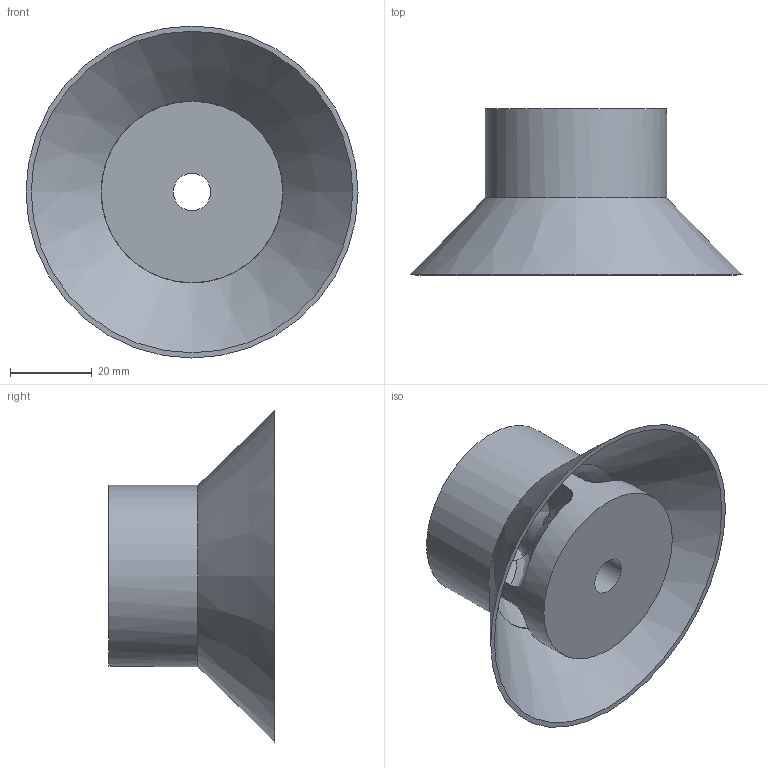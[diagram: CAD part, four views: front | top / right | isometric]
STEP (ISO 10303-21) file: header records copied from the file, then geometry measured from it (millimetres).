
FILE_DESCRIPTION(/* description */ (''),/* implementation_level */ '2;1');
FILE_NAME(/* name */ 'C:/Users/Owner/Desktop/KCAD 3Dp Fuel Filter Baffles Gen1/STEP Versions/1.75DIAx1.6 High Baffles STEP/1.75 Dia 36 CAL Baffle STEP.step',/* time_stamp */ '2019-05-22T19:20:27-04:00',/* author */ (''),/* organization */ (''),/* preprocessor_version */ 'ST-DEVELOPER v18',/* originating_system */ 'Autodesk Translation Framework v8.2.0.1029',/* authorisation */ '');
FILE_SCHEMA (('AUTOMOTIVE_DESIGN { 1 0 10303 214 3 1 1 }'));
Length unit declared in the file: inch
Products named in the file (1): baf 1.75 dia 1.6 high 36 cal
Bounding box: 81.28 x 40.64 x 81.28 mm (x, y, z)
Volume: 48965.7 mm3; surface area: 23197.4 mm2
Topology: 1 solids, 1 shells, 40 faces, 145 edges, 100 vertices
Faces by surface type: plane 15, bspline 13, cylinder 8, cone 2, torus 2
Full cylindrical faces by diameter (mm): 9.144 x2, 44.45 x2
Entity records: 2291 total; most frequent: CARTESIAN_POINT 1164, ORIENTED_EDGE 290, DIRECTION 158, EDGE_CURVE 145, VERTEX_POINT 100, B_SPLINE_CURVE_WITH_KNOTS 70, AXIS2_PLACEMENT_3D 64, EDGE_LOOP 43
